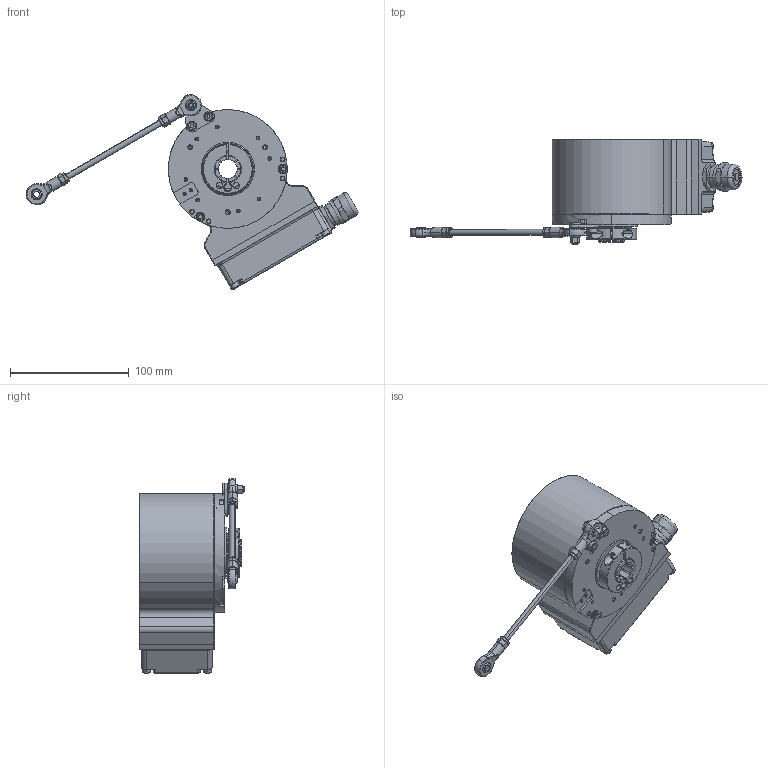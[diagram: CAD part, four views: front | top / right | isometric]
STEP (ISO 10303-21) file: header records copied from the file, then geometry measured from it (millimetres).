
FILE_DESCRIPTION (( 'STEP AP203' ), '1' );
FILE_NAME ('8.H120.425K.1024.STEP', '2013-06-26T06:26:58', ( 'LauferA' ), ( 'Microsoft' ), 'SwSTEP 2.0', 'SolidWorks 2012', '' );
FILE_SCHEMA (( 'CONFIG_CONTROL_DESIGN' ));
Length unit declared in the file: millimetre
Products named in the file (1): 8.H120.425K.1024
Bounding box: 279.5 x 89 x 164 mm (x, y, z)
Volume: 403637.6 mm3; surface area: 173257.8 mm2
Topology: 31 solids, 31 shells, 1616 faces, 3968 edges, 2397 vertices
Faces by surface type: cylinder 585, plane 481, cone 384, torus 90, bspline 52, sphere 24
Entity records: 48817 total; most frequent: CARTESIAN_POINT 10590, DIRECTION 8424, ORIENTED_EDGE 7708, EDGE_CURVE 3854, AXIS2_PLACEMENT_3D 3297, VERTEX_POINT 2393, LINE 1830, VECTOR 1830
